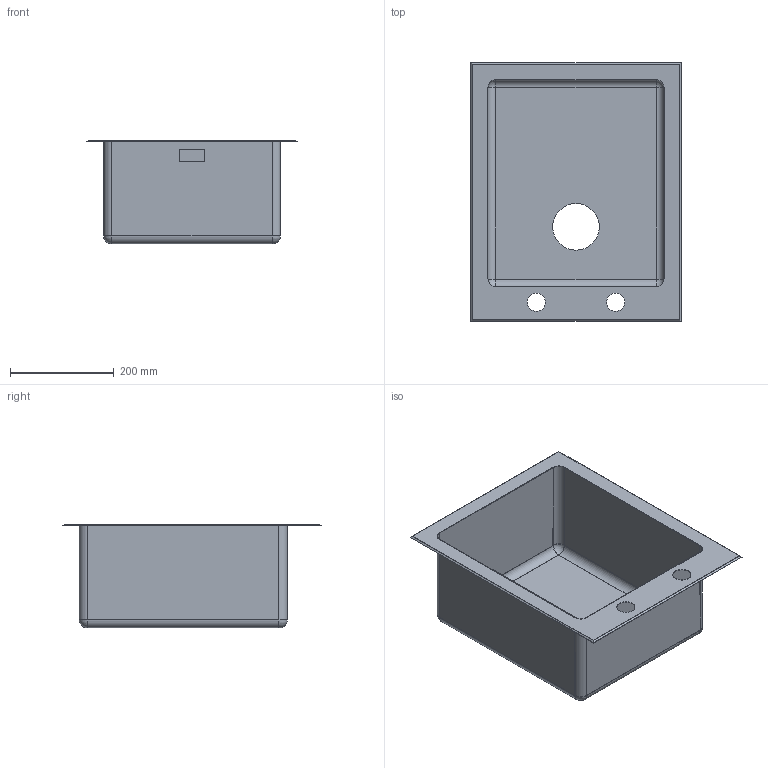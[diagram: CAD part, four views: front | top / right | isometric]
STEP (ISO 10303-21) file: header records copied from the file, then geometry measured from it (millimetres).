
FILE_DESCRIPTION(('CATIA V5 STEP Exchange'),'2;1');
FILE_NAME('C:\Users\linop\Desktop\VQR40RS.stp','2018-05-24T14:11:32+00:00',('none'),('none'),'CATIA Version 5-6 Release 2014','CATIA V5 STEP AP203','none');
FILE_SCHEMA(('CONFIG_CONTROL_DESIGN'));
Length unit declared in the file: millimetre
Products named in the file (1): VQR40RS
Bounding box: 407 x 500 x 200.9 mm (x, y, z)
Volume: 470068.4 mm3; surface area: 959218.5 mm2
Topology: 2 solids, 2 shells, 64 faces, 158 edges, 92 vertices
Faces by surface type: plane 30, cylinder 26, sphere 8
Entity records: 1798 total; most frequent: CARTESIAN_POINT 312, ORIENTED_EDGE 300, DIRECTION 264, EDGE_CURVE 150, AXIS2_PLACEMENT_3D 114, VERTEX_POINT 92, VECTOR 90, LINE 90
